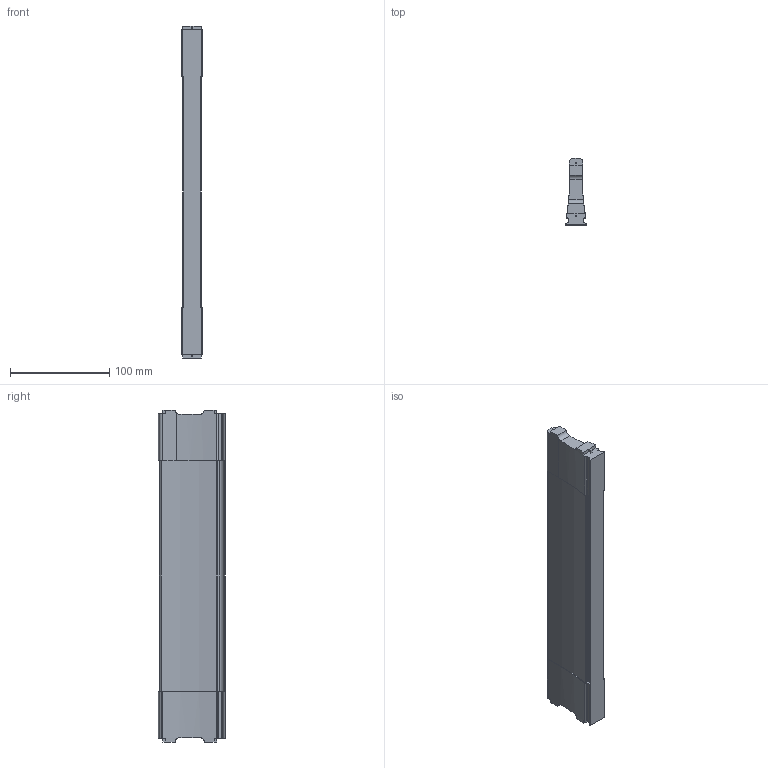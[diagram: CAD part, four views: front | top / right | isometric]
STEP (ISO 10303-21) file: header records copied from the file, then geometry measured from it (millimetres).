
FILE_DESCRIPTION (( 'STEP AP214' ), '1' );
FILE_NAME ('Traverse NOVAPro NL350 Mass X325,4.step', '2011-10-10T13:10:02', ( 'grass' ), ( '' ), 'SwSTEP 2.0', 'SolidWorks 2011', '' );
FILE_SCHEMA (( 'AUTOMOTIVE_DESIGN' ));
Length unit declared in the file: millimetre
Products named in the file (1): Traverse NOVAPro NL350 Mass X325,4
Bounding box: 21.4 x 67.5 x 334.4 mm (x, y, z)
Volume: 282552.4 mm3; surface area: 58940.6 mm2
Topology: 1 solids, 1 shells, 125 faces, 369 edges, 246 vertices
Faces by surface type: cylinder 68, plane 57
Entity records: 4377 total; most frequent: CARTESIAN_POINT 879, DIRECTION 753, ORIENTED_EDGE 738, EDGE_CURVE 369, AXIS2_PLACEMENT_3D 268, VERTEX_POINT 246, VECTOR 217, LINE 217
